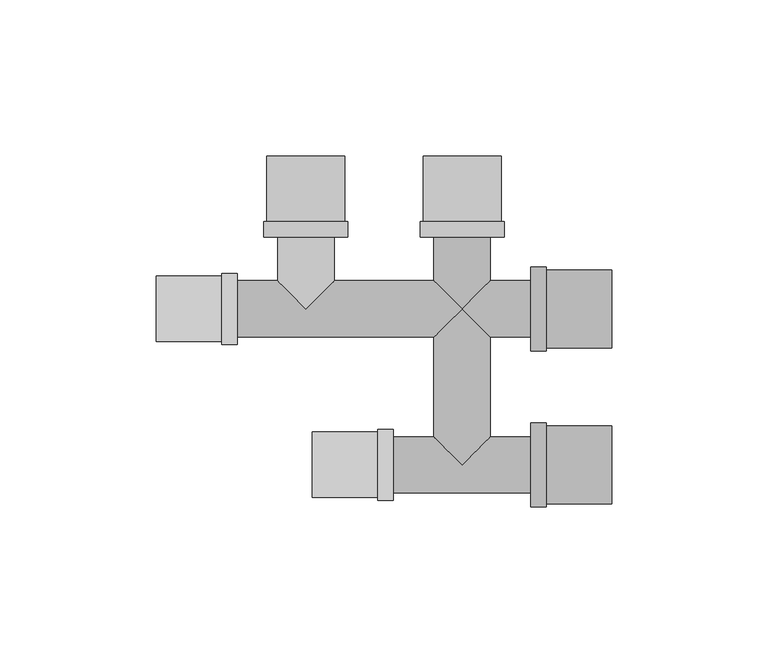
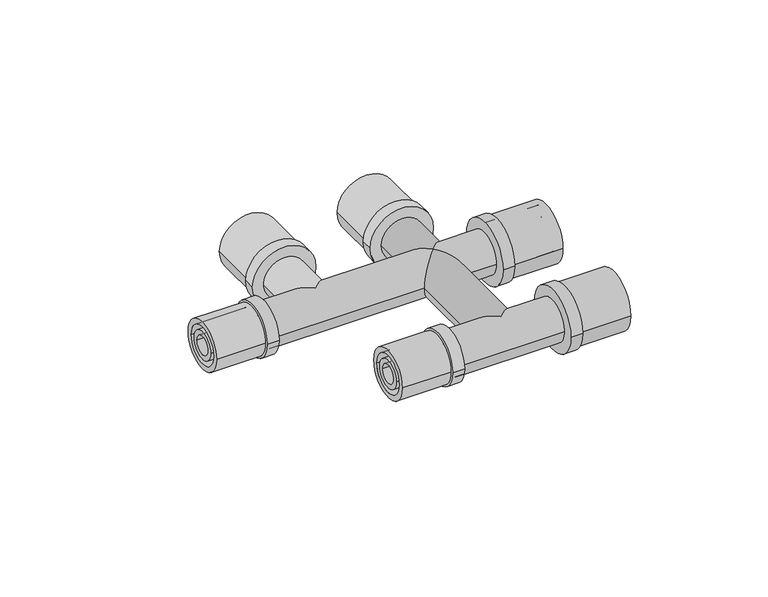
"""IFC4 building model written with IfcOpenShell, lengths in millimetres: pipe fitting geometry, PIF_Tigris_Crossfitting_Wavin_(multiport) : Tigris M5 Crossfitting 20x20x16."""

from ifc_helpers import new_model, si_unit, point, frame, frame_2d, origin, origin_2d, place, context, project, spatial, circle_curve, ellipse_curve, trimmed, segment, composite_curve, outline, extrude, source, transform, mapped, element, save
from ifc_brep_helpers import plane_surface, cylinder_surface, advanced_brep


def pipe_fitting_dc3cae9f(model_context):
    return source(origin(), model_context, "Body", "SolidModel", [
        extrude(outline(composite_curve([segment(trimmed(circle_curve(frame_2d((-50.0, 0.0)), 11.35), [point((-61.35, 0.0))], [point((-38.65, 0.0))], False, "CARTESIAN"), True, "CONTINUOUS"), segment(trimmed(circle_curve(frame_2d((-50.0, 0.0)), 11.35), [point((-38.65, 0.0))], [point((-61.35, 0.0))], False, "CARTESIAN"), True, "CONTINUOUS")], self_intersect=False)), frame((-27.0, 0.0, 0.0), z_axis=(1.0, 0.0, 0.0), x_axis=(0.0, 1.0, 0.0)), (0.0, 0.0, 1.0), 5.0),
        extrude(outline(composite_curve([segment(trimmed(circle_curve(frame_2d((-50.0, 0.0)), 10.5), [point((-60.5, 0.0))], [point((-39.5, 0.0))], False, "CARTESIAN"), True, "CONTINUOUS"), segment(trimmed(circle_curve(frame_2d((-50.0, 0.0)), 10.5), [point((-39.5, 0.0))], [point((-60.5, 0.0))], False, "CARTESIAN"), True, "CONTINUOUS")], self_intersect=False), holes=[composite_curve([segment(trimmed(circle_curve(frame_2d((-50.0, 0.0)), 8.2), [point((-58.2, 0.0))], [point((-41.8, 0.0))], True, "CARTESIAN"), True, "CONTINUOUS"), segment(trimmed(circle_curve(frame_2d((-50.0, 0.0)), 8.2), [point((-41.8, 0.0))], [point((-58.2, 0.0))], True, "CARTESIAN"), True, "CONTINUOUS")], self_intersect=False)]), frame((-48.0, 0.0, 0.0), z_axis=(1.0, 0.0, 0.0), x_axis=(0.0, 1.0, 0.0)), (0.0, 0.0, 1.0), 21.0),
        extrude(outline(composite_curve([segment(trimmed(circle_curve(frame_2d((-50.0, 0.0)), 6.1), [point((-56.1, 0.0))], [point((-43.9, 0.0))], False, "CARTESIAN"), True, "CONTINUOUS"), segment(trimmed(circle_curve(frame_2d((-50.0, 0.0)), 6.1), [point((-43.9, 0.0))], [point((-56.1, 0.0))], False, "CARTESIAN"), True, "CONTINUOUS")], self_intersect=False), holes=[composite_curve([segment(trimmed(circle_curve(frame_2d((-50.0, 0.0)), 4.0), [point((-54.0, 0.0))], [point((-46.0, 0.0))], True, "CARTESIAN"), True, "CONTINUOUS"), segment(trimmed(circle_curve(frame_2d((-50.0, 0.0)), 4.0), [point((-46.0, 0.0))], [point((-54.0, 0.0))], True, "CARTESIAN"), True, "CONTINUOUS")], self_intersect=False)]), frame((-48.0, 0.0, 0.0), z_axis=(1.0, 0.0, 0.0), x_axis=(0.0, 1.0, 0.0)), (0.0, 0.0, 1.0), 25.0),
        extrude(outline(composite_curve([segment(trimmed(circle_curve(frame_2d((-50.0, 0.0)), 13.45), [point((-36.55, 0.0))], [point((-63.45, 0.0))], False, "CARTESIAN"), True, "CONTINUOUS"), segment(trimmed(circle_curve(frame_2d((-50.0, 0.0)), 13.45), [point((-63.45, 0.0))], [point((-36.55, 0.0))], False, "CARTESIAN"), True, "CONTINUOUS")], self_intersect=False)), frame((22.0, 0.0, 0.0), z_axis=(1.0, 0.0, 0.0), x_axis=(0.0, 1.0, 0.0)), (0.0, 0.0, 1.0), 5.0),
        extrude(outline(composite_curve([segment(trimmed(circle_curve(frame_2d((-50.0, 0.0)), 12.5), [point((-37.5, 0.0))], [point((-62.5, 0.0))], False, "CARTESIAN"), True, "CONTINUOUS"), segment(trimmed(circle_curve(frame_2d((-50.0, 0.0)), 12.5), [point((-62.5, 0.0))], [point((-37.5, 0.0))], False, "CARTESIAN"), True, "CONTINUOUS")], self_intersect=False), holes=[composite_curve([segment(trimmed(circle_curve(frame_2d((-50.0, 0.0)), 10.2), [point((-39.8, 0.0))], [point((-60.2, 0.0))], True, "CARTESIAN"), True, "CONTINUOUS"), segment(trimmed(circle_curve(frame_2d((-50.0, 0.0)), 10.2), [point((-60.2, 0.0))], [point((-39.8, 0.0))], True, "CARTESIAN"), True, "CONTINUOUS")], self_intersect=False)]), frame((27.0, 0.0, 0.0), z_axis=(1.0, 0.0, 0.0), x_axis=(0.0, 1.0, 0.0)), (0.0, 0.0, 1.0), 21.0),
        extrude(outline(composite_curve([segment(trimmed(circle_curve(frame_2d((-50.0, 0.0)), 7.9), [point((-42.1, 0.0))], [point((-57.9, 0.0))], False, "CARTESIAN"), True, "CONTINUOUS"), segment(trimmed(circle_curve(frame_2d((-50.0, 0.0)), 7.9), [point((-57.9, 0.0))], [point((-42.1, 0.0))], False, "CARTESIAN"), True, "CONTINUOUS")], self_intersect=False), holes=[composite_curve([segment(trimmed(circle_curve(frame_2d((-50.0, 0.0)), 5.6), [point((-44.4, 0.0))], [point((-55.6, 0.0))], True, "CARTESIAN"), True, "CONTINUOUS"), segment(trimmed(circle_curve(frame_2d((-50.0, 0.0)), 5.6), [point((-55.6, 0.0))], [point((-44.4, 0.0))], True, "CARTESIAN"), True, "CONTINUOUS")], self_intersect=False)]), frame((22.0, 0.0, 0.0), z_axis=(1.0, 0.0, 0.0), x_axis=(0.0, 1.0, 0.0)), (0.0, 0.0, 1.0), 26.0),
        extrude(outline(composite_curve([segment(trimmed(circle_curve(origin_2d(), 13.45), [point((13.45, 0.0))], [point((-13.45, 0.0))], False, "CARTESIAN"), True, "CONTINUOUS"), segment(trimmed(circle_curve(origin_2d(), 13.45), [point((-13.45, 0.0))], [point((13.45, 0.0))], False, "CARTESIAN"), True, "CONTINUOUS")], self_intersect=False)), frame((22.0, 0.0, 0.0), z_axis=(1.0, 0.0, 0.0), x_axis=(0.0, 1.0, 0.0)), (0.0, 0.0, 1.0), 5.0),
        extrude(outline(composite_curve([segment(trimmed(circle_curve(origin_2d(), 12.5), [point((12.5, 0.0))], [point((-12.5, 0.0))], False, "CARTESIAN"), True, "CONTINUOUS"), segment(trimmed(circle_curve(origin_2d(), 12.5), [point((-12.5, 0.0))], [point((12.5, 0.0))], False, "CARTESIAN"), True, "CONTINUOUS")], self_intersect=False), holes=[composite_curve([segment(trimmed(circle_curve(origin_2d(), 10.2), [point((10.2, 0.0))], [point((-10.2, 0.0))], True, "CARTESIAN"), True, "CONTINUOUS"), segment(trimmed(circle_curve(origin_2d(), 10.2), [point((-10.2, 0.0))], [point((10.2, 0.0))], True, "CARTESIAN"), True, "CONTINUOUS")], self_intersect=False)]), frame((27.0, 0.0, 0.0), z_axis=(1.0, 0.0, 0.0), x_axis=(0.0, 1.0, 0.0)), (0.0, 0.0, 1.0), 21.0),
        extrude(outline(composite_curve([segment(trimmed(circle_curve(origin_2d(), 7.9), [point((7.9, 0.0))], [point((-7.9, 0.0))], False, "CARTESIAN"), True, "CONTINUOUS"), segment(trimmed(circle_curve(origin_2d(), 7.9), [point((-7.9, 0.0))], [point((7.9, 0.0))], False, "CARTESIAN"), True, "CONTINUOUS")], self_intersect=False), holes=[composite_curve([segment(trimmed(circle_curve(origin_2d(), 5.6), [point((5.6, 0.0))], [point((-5.6, 0.0))], True, "CARTESIAN"), True, "CONTINUOUS"), segment(trimmed(circle_curve(origin_2d(), 5.6), [point((-5.6, 0.0))], [point((5.6, 0.0))], True, "CARTESIAN"), True, "CONTINUOUS")], self_intersect=False)]), frame((22.0, 0.0, 0.0), z_axis=(1.0, 0.0, 0.0), x_axis=(0.0, 1.0, 0.0)), (0.0, 0.0, 1.0), 26.0),
        extrude(outline(composite_curve([segment(trimmed(circle_curve(origin_2d(), 13.45), [point((0.0, -13.45))], [point((0.0, 13.45))], False, "CARTESIAN"), True, "CONTINUOUS"), segment(trimmed(circle_curve(origin_2d(), 13.45), [point((0.0, 13.45))], [point((0.0, -13.45))], False, "CARTESIAN"), True, "CONTINUOUS")], self_intersect=False)), frame((0.0, 23.0, 0.0), z_axis=(0.0, 1.0, 0.0), x_axis=(0.0, 0.0, 1.0)), (0.0, 0.0, 1.0), 5.0),
        extrude(outline(composite_curve([segment(trimmed(circle_curve(origin_2d(), 12.5), [point((0.0, -12.5))], [point((0.0, 12.5))], False, "CARTESIAN"), True, "CONTINUOUS"), segment(trimmed(circle_curve(origin_2d(), 12.5), [point((0.0, 12.5))], [point((0.0, -12.5))], False, "CARTESIAN"), True, "CONTINUOUS")], self_intersect=False), holes=[composite_curve([segment(trimmed(circle_curve(origin_2d(), 10.2), [point((0.0, -10.2))], [point((0.0, 10.2))], True, "CARTESIAN"), True, "CONTINUOUS"), segment(trimmed(circle_curve(origin_2d(), 10.2), [point((0.0, 10.2))], [point((0.0, -10.2))], True, "CARTESIAN"), True, "CONTINUOUS")], self_intersect=False)]), frame((0.0, 28.0, 0.0), z_axis=(0.0, 1.0, 0.0), x_axis=(0.0, 0.0, 1.0)), (0.0, 0.0, 1.0), 21.0),
        extrude(outline(composite_curve([segment(trimmed(circle_curve(origin_2d(), 7.9), [point((0.0, -7.9))], [point((0.0, 7.9))], False, "CARTESIAN"), True, "CONTINUOUS"), segment(trimmed(circle_curve(origin_2d(), 7.9), [point((0.0, 7.9))], [point((0.0, -7.9))], False, "CARTESIAN"), True, "CONTINUOUS")], self_intersect=False), holes=[composite_curve([segment(trimmed(circle_curve(origin_2d(), 5.6), [point((0.0, -5.6))], [point((0.0, 5.6))], True, "CARTESIAN"), True, "CONTINUOUS"), segment(trimmed(circle_curve(origin_2d(), 5.6), [point((0.0, 5.6))], [point((0.0, -5.6))], True, "CARTESIAN"), True, "CONTINUOUS")], self_intersect=False)]), frame((0.0, 23.0, 0.0), z_axis=(0.0, 1.0, 0.0), x_axis=(0.0, 0.0, 1.0)), (0.0, 0.0, 1.0), 26.0),
        extrude(outline(composite_curve([segment(trimmed(circle_curve(frame_2d((0.0, -50.0)), 13.45), [point((0.0, -63.45))], [point((0.0, -36.55))], False, "CARTESIAN"), True, "CONTINUOUS"), segment(trimmed(circle_curve(frame_2d((0.0, -50.0)), 13.45), [point((0.0, -36.55))], [point((0.0, -63.45))], False, "CARTESIAN"), True, "CONTINUOUS")], self_intersect=False)), frame((0.0, 23.0, 0.0), z_axis=(0.0, 1.0, 0.0), x_axis=(0.0, 0.0, 1.0)), (0.0, 0.0, 1.0), 5.0),
        extrude(outline(composite_curve([segment(trimmed(circle_curve(frame_2d((0.0, -50.0)), 12.5), [point((0.0, -62.5))], [point((0.0, -37.5))], False, "CARTESIAN"), True, "CONTINUOUS"), segment(trimmed(circle_curve(frame_2d((0.0, -50.0)), 12.5), [point((0.0, -37.5))], [point((0.0, -62.5))], False, "CARTESIAN"), True, "CONTINUOUS")], self_intersect=False), holes=[composite_curve([segment(trimmed(circle_curve(frame_2d((0.0, -50.0)), 10.2), [point((0.0, -60.2))], [point((0.0, -39.8))], True, "CARTESIAN"), True, "CONTINUOUS"), segment(trimmed(circle_curve(frame_2d((0.0, -50.0)), 10.2), [point((0.0, -39.8))], [point((0.0, -60.2))], True, "CARTESIAN"), True, "CONTINUOUS")], self_intersect=False)]), frame((0.0, 28.0, 0.0), z_axis=(0.0, 1.0, 0.0), x_axis=(0.0, 0.0, 1.0)), (0.0, 0.0, 1.0), 21.0),
        extrude(outline(composite_curve([segment(trimmed(circle_curve(frame_2d((0.0, -50.0)), 7.9), [point((0.0, -57.9))], [point((0.0, -42.1))], False, "CARTESIAN"), True, "CONTINUOUS"), segment(trimmed(circle_curve(frame_2d((0.0, -50.0)), 7.9), [point((0.0, -42.1))], [point((0.0, -57.9))], False, "CARTESIAN"), True, "CONTINUOUS")], self_intersect=False), holes=[composite_curve([segment(trimmed(circle_curve(frame_2d((0.0, -50.0)), 5.6), [point((0.0, -55.6))], [point((0.0, -44.4))], True, "CARTESIAN"), True, "CONTINUOUS"), segment(trimmed(circle_curve(frame_2d((0.0, -50.0)), 5.6), [point((0.0, -44.4))], [point((0.0, -55.6))], True, "CARTESIAN"), True, "CONTINUOUS")], self_intersect=False)]), frame((0.0, 23.0, 0.0), z_axis=(0.0, 1.0, 0.0), x_axis=(0.0, 0.0, 1.0)), (0.0, 0.0, 1.0), 26.0),
        extrude(outline(composite_curve([segment(trimmed(circle_curve(origin_2d(), 11.35), [point((-11.35, 0.0))], [point((11.35, 0.0))], False, "CARTESIAN"), True, "CONTINUOUS"), segment(trimmed(circle_curve(origin_2d(), 11.35), [point((11.35, 0.0))], [point((-11.35, 0.0))], False, "CARTESIAN"), True, "CONTINUOUS")], self_intersect=False)), frame((-77.0, 0.0, 0.0), z_axis=(1.0, 0.0, 0.0), x_axis=(0.0, 1.0, 0.0)), (0.0, 0.0, 1.0), 5.0),
        extrude(outline(composite_curve([segment(trimmed(circle_curve(origin_2d(), 10.5), [point((-10.5, 0.0))], [point((10.5, 0.0))], False, "CARTESIAN"), True, "CONTINUOUS"), segment(trimmed(circle_curve(origin_2d(), 10.5), [point((10.5, 0.0))], [point((-10.5, 0.0))], False, "CARTESIAN"), True, "CONTINUOUS")], self_intersect=False), holes=[composite_curve([segment(trimmed(circle_curve(origin_2d(), 8.2), [point((-8.2, 0.0))], [point((8.2, 0.0))], True, "CARTESIAN"), True, "CONTINUOUS"), segment(trimmed(circle_curve(origin_2d(), 8.2), [point((8.2, 0.0))], [point((-8.2, 0.0))], True, "CARTESIAN"), True, "CONTINUOUS")], self_intersect=False)]), frame((-98.0, 0.0, 0.0), z_axis=(1.0, 0.0, 0.0), x_axis=(0.0, 1.0, 0.0)), (0.0, 0.0, 1.0), 21.0),
        extrude(outline(composite_curve([segment(trimmed(circle_curve(origin_2d(), 6.1), [point((-6.1, 0.0))], [point((6.1, 0.0))], False, "CARTESIAN"), True, "CONTINUOUS"), segment(trimmed(circle_curve(origin_2d(), 6.1), [point((6.1, 0.0))], [point((-6.1, 0.0))], False, "CARTESIAN"), True, "CONTINUOUS")], self_intersect=False), holes=[composite_curve([segment(trimmed(circle_curve(origin_2d(), 4.0), [point((-4.0, 0.0))], [point((4.0, 0.0))], True, "CARTESIAN"), True, "CONTINUOUS"), segment(trimmed(circle_curve(origin_2d(), 4.0), [point((4.0, 0.0))], [point((-4.0, 0.0))], True, "CARTESIAN"), True, "CONTINUOUS")], self_intersect=False)]), frame((-98.0, 0.0, 0.0), z_axis=(1.0, 0.0, 0.0), x_axis=(0.0, 1.0, 0.0)), (0.0, 0.0, 1.0), 25.0),
        advanced_brep(
        [(-41.0, 23.0, 0.0), (-59.0, 23.0, 0.0), (-59.0, 9.0, 0.0), (-50.0, 0.0, 9.0), (-41.0, 9.0, 0.0), (-50.0, 0.0, -9.0), (-73.0, -9.0, 0.0), (-73.0, 9.0, 0.0), (22.0, -9.0, 0.0), (22.0, 9.0, 0.0), (-9.0, -9.0, 0.0), (0.0, 0.0, 9.0), (-9.0, 9.0, 0.0), (9.0, 9.0, 0.0), (9.0, -9.0, 0.0), (0.0, 0.0, -9.0), (-9.0, 23.0, 0.0), (9.0, 23.0, 0.0), (-9.0, -41.0, 0.0), (0.0, -50.0, 9.0), (9.0, -41.0, 0.0), (0.0, -50.0, -9.0), (-23.0, -59.0, 0.0), (-23.0, -41.0, 0.0), (22.0, -59.0, 0.0), (22.0, -41.0, 0.0)],
        [
            (0, 1, circle_curve(frame((-50.0, 23.0, 0.0), z_axis=(0.0, 1.0, 0.0), x_axis=(-1.0, 0.0, 0.0)), 9.0)),
            (1, 0, circle_curve(frame((-50.0, 23.0, 0.0), z_axis=(0.0, 1.0, 0.0), x_axis=(-1.0, 0.0, 0.0)), 9.0)),
            (1, 2),
            (2, 3, ellipse_curve(frame((-50.0, 0.0, 0.0), z_axis=(0.7071067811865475, 0.7071067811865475, 0.0), x_axis=(0.7071067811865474, -0.7071067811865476, 0.0)), 12.7279221, 9.0)),
            (3, 4, ellipse_curve(frame((-50.0, 0.0, 0.0), z_axis=(-0.7071067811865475, 0.7071067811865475, 0.0), x_axis=(-0.7071067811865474, -0.7071067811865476, 0.0)), 12.7279221, 9.0)),
            (4, 0),
            (4, 5, ellipse_curve(frame((-50.0, 0.0, 0.0), z_axis=(-0.7071067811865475, 0.7071067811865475, 0.0), x_axis=(-0.7071067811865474, -0.7071067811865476, 0.0)), 12.7279221, 9.0)),
            (5, 2, ellipse_curve(frame((-50.0, 0.0, 0.0), z_axis=(0.7071067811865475, 0.7071067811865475, 0.0), x_axis=(0.7071067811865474, -0.7071067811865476, 0.0)), 12.7279221, 9.0)),
            (6, 7, circle_curve(frame((-73.0, 0.0, 0.0), z_axis=(-1.0, 0.0, 0.0), x_axis=(0.0, 1.0, 0.0)), 9.0)),
            (7, 6, circle_curve(frame((-73.0, 0.0, 0.0), z_axis=(-1.0, 0.0, 0.0), x_axis=(0.0, 1.0, 0.0)), 9.0)),
            (8, 9, circle_curve(frame((22.0, 0.0, 0.0), z_axis=(1.0, 0.0, 0.0), x_axis=(0.0, 1.0, 0.0)), 9.0)),
            (9, 8, circle_curve(frame((22.0, 0.0, 0.0), z_axis=(1.0, 0.0, 0.0), x_axis=(0.0, 1.0, 0.0)), 9.0)),
            (6, 10),
            (10, 11, ellipse_curve(frame((0.0, 0.0, 0.0), z_axis=(-0.7071067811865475, 0.7071067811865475, 0.0), x_axis=(-0.7071067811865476, -0.7071067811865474, 0.0)), 12.7279221, 9.0)),
            (11, 12, ellipse_curve(frame((0.0, 0.0, 0.0), z_axis=(-0.7071067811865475, -0.7071067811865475, 0.0), x_axis=(-0.7071067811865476, 0.7071067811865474, 0.0)), 12.7279221, 9.0)),
            (12, 4),
            (2, 7),
            (9, 13),
            (13, 11, ellipse_curve(frame((0.0, 0.0, 0.0), z_axis=(0.7071067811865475, -0.7071067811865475, 0.0), x_axis=(-0.7071067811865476, -0.7071067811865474, 0.0)), 12.7279221, 9.0)),
            (11, 14, ellipse_curve(frame((0.0, 0.0, 0.0), z_axis=(0.7071067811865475, 0.7071067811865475, 0.0), x_axis=(-0.7071067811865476, 0.7071067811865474, 0.0)), 12.7279221, 9.0)),
            (14, 8),
            (12, 15, ellipse_curve(frame((0.0, 0.0, 0.0), z_axis=(-0.7071067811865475, -0.7071067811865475, 0.0), x_axis=(-0.7071067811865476, 0.7071067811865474, 0.0)), 12.7279221, 9.0)),
            (15, 10, ellipse_curve(frame((0.0, 0.0, 0.0), z_axis=(-0.7071067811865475, 0.7071067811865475, 0.0), x_axis=(-0.7071067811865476, -0.7071067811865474, 0.0)), 12.7279221, 9.0)),
            (14, 15, ellipse_curve(frame((0.0, 0.0, 0.0), z_axis=(0.7071067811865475, 0.7071067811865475, 0.0), x_axis=(-0.7071067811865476, 0.7071067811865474, 0.0)), 12.7279221, 9.0)),
            (15, 13, ellipse_curve(frame((0.0, 0.0, 0.0), z_axis=(0.7071067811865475, -0.7071067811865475, 0.0), x_axis=(-0.7071067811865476, -0.7071067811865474, 0.0)), 12.7279221, 9.0)),
            (16, 17, circle_curve(frame((0.0, 23.0, 0.0), z_axis=(0.0, 1.0, 0.0), x_axis=(1.0, 0.0, 0.0)), 9.0)),
            (17, 16, circle_curve(frame((0.0, 23.0, 0.0), z_axis=(0.0, 1.0, 0.0), x_axis=(1.0, 0.0, 0.0)), 9.0)),
            (10, 18),
            (18, 19, ellipse_curve(frame((0.0, -50.0, 0.0), z_axis=(0.7071067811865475, 0.7071067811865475, 0.0), x_axis=(-0.7071067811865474, 0.7071067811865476, 0.0)), 12.7279221, 9.0)),
            (19, 20, ellipse_curve(frame((0.0, -50.0, 0.0), z_axis=(-0.7071067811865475, 0.7071067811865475, 0.0), x_axis=(0.7071067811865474, 0.7071067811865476, 0.0)), 12.7279221, 9.0)),
            (20, 14),
            (16, 12),
            (13, 17),
            (20, 21, ellipse_curve(frame((0.0, -50.0, 0.0), z_axis=(-0.7071067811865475, 0.7071067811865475, 0.0), x_axis=(0.7071067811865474, 0.7071067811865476, 0.0)), 12.7279221, 9.0)),
            (21, 18, ellipse_curve(frame((0.0, -50.0, 0.0), z_axis=(0.7071067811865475, 0.7071067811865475, 0.0), x_axis=(-0.7071067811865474, 0.7071067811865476, 0.0)), 12.7279221, 9.0)),
            (22, 23, circle_curve(frame((-23.0, -50.0, 0.0), z_axis=(-1.0, 0.0, 0.0), x_axis=(0.0, 1.0, 0.0)), 9.0)),
            (23, 22, circle_curve(frame((-23.0, -50.0, 0.0), z_axis=(-1.0, 0.0, 0.0), x_axis=(0.0, 1.0, 0.0)), 9.0)),
            (24, 25, circle_curve(frame((22.0, -50.0, 0.0), z_axis=(1.0, 0.0, 0.0), x_axis=(0.0, 1.0, 0.0)), 9.0)),
            (25, 24, circle_curve(frame((22.0, -50.0, 0.0), z_axis=(1.0, 0.0, 0.0), x_axis=(0.0, 1.0, 0.0)), 9.0)),
            (22, 24),
            (25, 20),
            (18, 23),
        ],
        [
            plane_surface(frame((-50.0, 23.0, 0.0), z_axis=(0.0, 1.0, 0.0), x_axis=(0.0, 0.0, 1.0))),
            cylinder_surface(frame((-50.0, 0.0, 0.0), z_axis=(0.0, -1.0, 0.0), x_axis=(-1.0, 0.0, 0.0)), 9.0),
            plane_surface(frame((-73.0, 0.0, 0.0), z_axis=(-1.0, 0.0, 0.0), x_axis=(0.0, 0.0, 1.0))),
            plane_surface(frame((22.0, 0.0, 0.0), z_axis=(1.0, 0.0, 0.0), x_axis=(0.0, 0.0, 1.0))),
            cylinder_surface(frame((-73.0, 0.0, 0.0), z_axis=(-1.0, 0.0, 0.0), x_axis=(0.0, 1.0, 0.0)), 9.0),
            plane_surface(frame((0.0, 23.0, 0.0), z_axis=(0.0, 1.0, 0.0), x_axis=(0.0, 0.0, 1.0))),
            cylinder_surface(frame((0.0, 23.0, 0.0), z_axis=(0.0, 1.0, 0.0), x_axis=(1.0, 0.0, 0.0)), 9.0),
            plane_surface(frame((-23.0, -50.0, 0.0), z_axis=(-1.0, 0.0, 0.0), x_axis=(0.0, 0.0, 1.0))),
            plane_surface(frame((22.0, -50.0, 0.0), z_axis=(1.0, 0.0, 0.0), x_axis=(0.0, 0.0, 1.0))),
            cylinder_surface(frame((-23.0, -50.0, 0.0), z_axis=(-1.0, 0.0, 0.0), x_axis=(0.0, 1.0, 0.0)), 9.0),
        ],
        [
            (0, [[1, 2]]),
            (1, [[-2, 3, 4, 5, 6]]),
            (1, [[-1, -6, 7, 8, -3]]),
            (2, [[9, 10]]),
            (3, [[11, 12]]),
            (4, [[-9, 13, 14, 15, 16, -5, -4, 17]]),
            (4, [[-12, 18, 19, 20, 21]]),
            (4, [[-10, -17, -8, -7, -16, 22, 23, -13]]),
            (4, [[-11, -21, 24, 25, -18]]),
            (5, [[26, 27]]),
            (6, [[-20, -14, 28, 29, 30, 31]]),
            (6, [[-26, 32, -15, -19, 33]]),
            (6, [[-24, -31, 34, 35, -28, -23]]),
            (6, [[-27, -33, -25, -22, -32]]),
            (7, [[36, 37]]),
            (8, [[38, 39]]),
            (9, [[-36, 40, -39, 41, -30, -29, 42]]),
            (9, [[-37, -42, -35, -34, -41, -38, -40]]),
        ],
    ),
    ])


if __name__ == "__main__":
    model = new_model("IFC4")
    model_context = context("Model", 3, world=origin())
    ifc_project = project(units=[si_unit("LENGTHUNIT", "METRE", prefix="MILLI")], contexts=[model_context])
    site = spatial("IfcSite", under=ifc_project)
    building = spatial("IfcBuilding", under=site)
    placement = place(None, origin())
    pipe_fitting_shape = pipe_fitting_dc3cae9f(model_context)
    element("IfcPipeFitting", 1, ObjectType="PIF_Tigris_Crossfitting_Wavin_(multiport) : Tigris M5 Crossfitting 20x20x16", at=placement, inside=building, context=model_context, shape_type="MappedRepresentation", body=[
        mapped(pipe_fitting_shape, transform((0.0, 0.0, 0.0), x_axis=(1.0, 0.0, 0.0), y_axis=(0.0, 1.0, 0.0), z_axis=(0.0, 0.0, 1.0))),
    ])
    save(model, "model.ifc")
